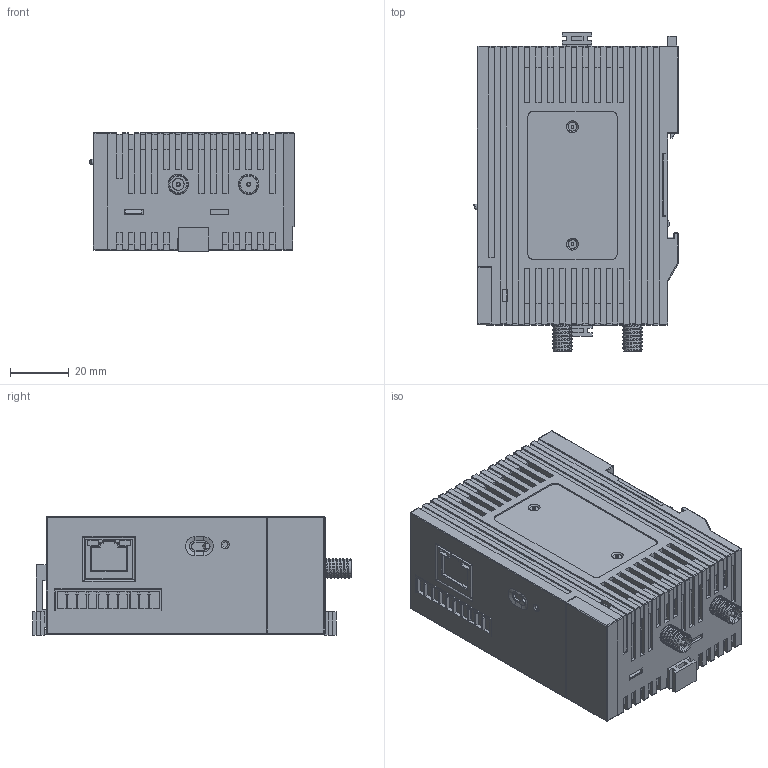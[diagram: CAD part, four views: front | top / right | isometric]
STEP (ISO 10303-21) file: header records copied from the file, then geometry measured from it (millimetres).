
FILE_DESCRIPTION (( 'STEP AP203' ), '1' );
FILE_NAME ('A8系列卡片PLC主机通用模型.STEP', '2023-06-10T02:04:58', ( 'h''w''s''j''s' ), ( '' ), 'SwSTEP 2.0', 'SolidWorks 2020', '' );
FILE_SCHEMA (( 'CONFIG_CONTROL_DESIGN' ));
Products named in the file (1): A8系列卡片PLC主机通用模型
Bounding box: 69.6 x 108.63 x 40.4 mm (x, y, z)
Volume: 244217.4 mm3; surface area: 36926.1 mm2
Topology: 1 solids, 11 shells, 1570 faces, 4339 edges, 2836 vertices
Faces by surface type: plane 1231, cylinder 277, bspline 32, torus 20, cone 6, sphere 4
Entity records: 53711 total; most frequent: CARTESIAN_POINT 14157, ORIENTED_EDGE 8658, DIRECTION 7437, EDGE_CURVE 4329, VECTOR 3665, LINE 3665, VERTEX_POINT 2836, AXIS2_PLACEMENT_3D 1886
